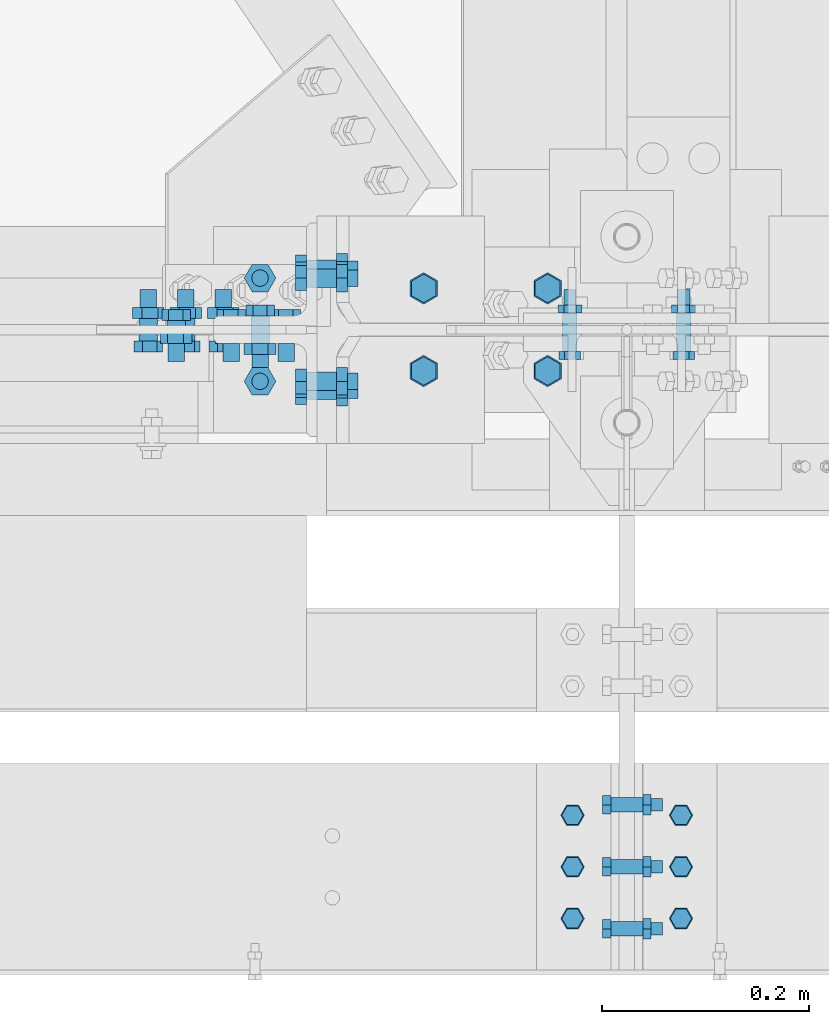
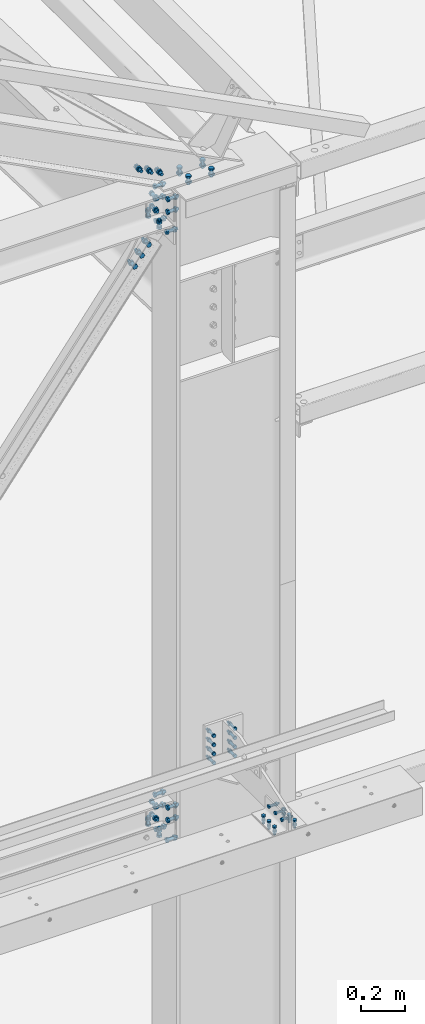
# One storey, part 166 of 362: 20 mechanical fasteners.
"""IFC2X3 building model written with IfcOpenShell, lengths in millimetres."""

from ifc_helpers import new_model, si_unit, frame, origin_with_axes, origin_2d_with_axis, place, context, subcontext, project, spatial, polyline, circle, outline, extrude, source, transform, mapped, material, type_object, element, save


model = new_model("IFC2X3")

# Units and contexts
model_context = context("Model", 3, precision=1e-05, world=origin_with_axes())
body_context = subcontext(model_context, "Body", "Model", "MODEL_VIEW")
ifc_project = project(units=[si_unit("LENGTHUNIT", "METRE", prefix="MILLI"), si_unit("AREAUNIT", "SQUARE_METRE"), si_unit("VOLUMEUNIT", "CUBIC_METRE"), si_unit("MASSUNIT", "GRAM", prefix="KILO"), si_unit("TIMEUNIT", "SECOND"), si_unit("PLANEANGLEUNIT", "RADIAN"), si_unit("SOLIDANGLEUNIT", "STERADIAN"), si_unit("THERMODYNAMICTEMPERATUREUNIT", "DEGREE_CELSIUS"), si_unit("LUMINOUSINTENSITYUNIT", "LUMEN")], contexts=[model_context])

# Site, building, storey
site_placement = place(None, origin_with_axes())
site = spatial("IfcSite", under=ifc_project, at=site_placement, Name="Undefined", CompositionType="ELEMENT")
building_placement = place(site_placement, origin_with_axes())
building = spatial("IfcBuilding", under=site, at=building_placement, Name="Undefined", CompositionType="ELEMENT")
storey_placement = place(building_placement, origin_with_axes())
storey = spatial("IfcBuildingStorey", under=building, at=storey_placement, Name="Undefined", CompositionType="ELEMENT", Elevation=0.0)

# Mechanical fasteners
ifc_material_1 = material(Name="8.8-SB-ZINGUE")
mechanical_fastener_type = type_object("IfcMechanicalFastenerType", Name="Bolt assembly")
shared_shape_1 = source(origin_with_axes(), body_context, "Body", "SweptSolid", [
    extrude(circle(Radius=7.0, at=origin_2d_with_axis()), frame((0.0, -7.5, 0.0), z_axis=(0.0, 1.0, 0.0), x_axis=(1.0, 0.0, 0.0)), (0.0, 0.0, 1.0), 15.0),
    extrude(circle(Radius=7.0, at=origin_2d_with_axis()), frame((0.0, -15.4, 0.0), z_axis=(0.0, 1.0, 0.0), x_axis=(1.0, 0.0, 0.0)), (0.0, 0.0, 1.0), 8.0),
    extrude(circle(Radius=7.0, at=origin_2d_with_axis()), frame((0.0, 7.39216762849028, 0.0), z_axis=(0.0, 1.0, 0.0), x_axis=(1.0, 0.0, 0.0)), (0.0, 0.0, 1.0), 8.1),
    extrude(outline(polyline([(10.39230484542, 0.0), (5.19615242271, 9.00000000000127), (-5.19615242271, 9.00000000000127), (-10.39230484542, 0.0), (-5.19615242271, -9.00000000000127), (5.19615242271, -9.00000000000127), (10.39230484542, 0.0)])), frame((0.0, -23.42, 0.0), z_axis=(0.0, 1.0, 0.0), x_axis=(1.0, 0.0, 0.0)), (0.0, 0.0, 1.0), 7.92),
    extrude(circle(Radius=6.0, at=origin_2d_with_axis()), frame((0.0, -15.5, 0.0), z_axis=(0.0, 1.0, 0.0), x_axis=(1.0, 0.0, 0.0)), (0.0, 0.0, 1.0), 50.0),
    extrude(outline(polyline([(11.5008173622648, 0.0), (5.7504086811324, 9.96000000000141), (-5.7504086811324, 9.96000000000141), (-11.5008173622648, 0.0), (-5.7504086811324, -9.96000000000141), (5.7504086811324, -9.96000000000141), (11.5008173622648, 0.0)])), frame((0.0, 15.4921676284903, 0.0), z_axis=(0.0, 1.0, 0.0), x_axis=(1.0, 0.0, 0.0)), (0.0, 0.0, 1.0), 7.92),
])
mechanical_fastener_1_placement = place(storey_placement, frame((28880.0, -520.0, 5274.99824538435), z_axis=(0.0, -1.0, 0.0), x_axis=(0.0, 0.0, -1.0)))
element("IfcMechanicalFastener", 1, at=mechanical_fastener_1_placement, inside=storey, type_object=mechanical_fastener_type, material=ifc_material_1, Name="Bolt assembly", NominalDiameter=12.0, NominalLength=50.0, context=body_context, shape_type="MappedRepresentation", body=[
    mapped(shared_shape_1, transform((0.0, 0.0, -60.0))),
    mapped(shared_shape_1, transform((0.0, 0.0, 0.0))),
    mapped(shared_shape_1, transform((0.0, 0.0, 60.0))),
])
shared_shape_2 = source(origin_with_axes(), body_context, "Body", "SweptSolid", [
    extrude(circle(Radius=7.0, at=origin_2d_with_axis()), frame((0.0, -0.100011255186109, 0.0), z_axis=(0.0, 1.0, 0.0), x_axis=(1.0, 0.0, 0.0)), (0.0, 0.0, 1.0), 8.6),
    extrude(circle(Radius=7.0, at=origin_2d_with_axis()), frame((0.0, -7.9, 0.0), z_axis=(0.0, 1.0, 0.0), x_axis=(1.0, 0.0, 0.0)), (0.0, 0.0, 1.0), 8.0),
    extrude(outline(polyline([(10.39230484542, 0.0), (5.19615242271, 9.00000000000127), (-5.19615242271, 9.00000000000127), (-10.39230484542, 0.0), (-5.19615242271, -9.00000000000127), (5.19615242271, -9.00000000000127), (10.39230484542, 0.0)])), frame((0.0, -15.92, 0.0), z_axis=(0.0, 1.0, 0.0), x_axis=(1.0, 0.0, 0.0)), (0.0, 0.0, 1.0), 7.92),
    extrude(circle(Radius=6.0, at=origin_2d_with_axis()), frame((0.0, -8.0, 0.0), z_axis=(0.0, 1.0, 0.0), x_axis=(1.0, 0.0, 0.0)), (0.0, 0.0, 1.0), 40.0),
    extrude(outline(polyline([(11.5008173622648, 0.0), (5.7504086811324, 9.96000000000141), (-5.7504086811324, 9.96000000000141), (-11.5008173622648, 0.0), (-5.7504086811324, -9.96000000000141), (5.7504086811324, -9.96000000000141), (11.5008173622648, 0.0)])), frame((0.0, 8.49999994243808, 0.0), z_axis=(0.0, 1.0, 0.0), x_axis=(1.0, 0.0, 0.0)), (0.0, 0.0, 1.0), 7.92),
])
for number, where, z_axis, x_axis, name in (
    (2, (28932.4921676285, -520.0, 5229.99824532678), (0.0, -1.0, 0.0), (-1.0, 0.0, 0.0), "Bolt assembly"),
    (3, (28827.5, -520.0, 5229.99824532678), (0.0, 1.0, 0.0), (1.0, 0.0, 0.0), "Bolt assembly"),
):
    element("IfcMechanicalFastener", number, at=place(storey_placement, frame(where, z_axis=z_axis, x_axis=x_axis)), inside=storey, type_object=mechanical_fastener_type, material=ifc_material_1, Name=name, NominalDiameter=12.0, NominalLength=40.0, context=body_context, shape_type="MappedRepresentation", body=[
        mapped(shared_shape_2, transform((0.0, 0.0, -50.0))),
        mapped(shared_shape_2, transform((0.0, 0.0, 0.0))),
        mapped(shared_shape_2, transform((0.0, 0.0, 50.0))),
    ])
shared_shape_3 = source(origin_with_axes(), body_context, "Body", "SweptSolid", [
    extrude(circle(Radius=7.0, at=origin_2d_with_axis()), frame((0.0, 4.99855588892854, 0.0), z_axis=(0.0, 1.0, 0.0), x_axis=(1.0, 0.0, 0.0)), (0.0, 0.0, 1.0), 12.0),
    extrude(circle(Radius=7.0, at=origin_2d_with_axis()), frame((0.0, -9.90144411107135, 0.0), z_axis=(0.0, 1.0, 0.0), x_axis=(1.0, 0.0, 0.0)), (0.0, 0.0, 1.0), 15.0),
    extrude(circle(Radius=7.0, at=origin_2d_with_axis()), frame((0.0, 16.90700523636, 0.0), z_axis=(0.0, 1.0, 0.0), x_axis=(1.0, 0.0, 0.0)), (0.0, 0.0, 1.0), 10.1),
    extrude(outline(polyline([(10.39230484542, 0.0), (5.19615242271, 9.00000000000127), (-5.19615242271, 9.00000000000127), (-10.39230484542, 0.0), (-5.19615242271, -9.00000000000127), (5.19615242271, -9.00000000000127), (10.39230484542, 0.0)])), frame((0.0, -17.9214441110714, 0.0), z_axis=(0.0, 1.0, 0.0), x_axis=(1.0, 0.0, 0.0)), (0.0, 0.0, 1.0), 7.92),
    extrude(circle(Radius=6.0, at=origin_2d_with_axis()), frame((0.0, -10.0014441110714, 0.0), z_axis=(0.0, 1.0, 0.0), x_axis=(1.0, 0.0, 0.0)), (0.0, 0.0, 1.0), 60.0),
    extrude(outline(polyline([(11.5008173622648, 0.0), (5.7504086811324, 9.96000000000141), (-5.7504086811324, 9.96000000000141), (-11.5008173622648, 0.0), (-5.7504086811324, -9.96000000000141), (5.7504086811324, -9.96000000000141), (11.5008173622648, 0.0)])), frame((0.0, 27.00700523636, 0.0), z_axis=(0.0, 1.0, 0.0), x_axis=(1.0, 0.0, 0.0)), (0.0, 0.0, 1.0), 7.92),
])
mechanical_fastener_2_placement = place(storey_placement, frame((28934.9999023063, -10.9985558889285, 5290.00066228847), z_axis=(0.0, 0.0, 1.0), x_axis=(1.0, 0.0, 0.0)))
element("IfcMechanicalFastener", 4, at=mechanical_fastener_2_placement, inside=storey, type_object=mechanical_fastener_type, material=ifc_material_1, Name="Bolt assembly", NominalDiameter=12.0, NominalLength=60.0, context=body_context, shape_type="MappedRepresentation", body=[
    mapped(shared_shape_3, transform((0.0, 0.0, 25.0))),
    mapped(shared_shape_3, transform((0.0, 0.0, -25.0))),
])
mechanical_fastener_3_placement = place(storey_placement, frame((28825.0012970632, -10.9985558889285, 5290.00066228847), z_axis=(0.0, 0.0, -1.0), x_axis=(-1.0, 0.0, 0.0)))
element("IfcMechanicalFastener", 5, at=mechanical_fastener_3_placement, inside=storey, type_object=mechanical_fastener_type, material=ifc_material_1, Name="Bolt assembly", NominalDiameter=12.0, NominalLength=60.0, context=body_context, shape_type="MappedRepresentation", body=[
    mapped(shared_shape_3, transform((0.0, 0.0, -25.0))),
    mapped(shared_shape_3, transform((0.0, 0.0, 25.0))),
])
shared_shape_4 = source(origin_with_axes(), body_context, "Body", "SweptSolid", [
    extrude(circle(Radius=7.0, at=origin_2d_with_axis()), frame((0.0, 0.0, 0.0), z_axis=(0.0, 1.0, 0.0), x_axis=(1.0, 0.0, 0.0)), (0.0, 0.0, 1.0), 12.0),
    extrude(circle(Radius=7.0, at=origin_2d_with_axis()), frame((0.0, -14.899999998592, 0.0), z_axis=(0.0, 1.0, 0.0), x_axis=(1.0, 0.0, 0.0)), (0.0, 0.0, 1.0), 15.0),
    extrude(circle(Radius=7.0, at=origin_2d_with_axis()), frame((0.0, 11.9084493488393, 0.0), z_axis=(0.0, 1.0, 0.0), x_axis=(1.0, 0.0, 0.0)), (0.0, 0.0, 1.0), 10.1),
    extrude(outline(polyline([(10.39230484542, 0.0), (5.19615242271, 9.00000000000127), (-5.19615242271, 9.00000000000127), (-10.39230484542, 0.0), (-5.19615242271, -9.00000000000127), (5.19615242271, -9.00000000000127), (10.39230484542, 0.0)])), frame((0.0, -22.919999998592, 0.0), z_axis=(0.0, 1.0, 0.0), x_axis=(1.0, 0.0, 0.0)), (0.0, 0.0, 1.0), 7.92),
    extrude(circle(Radius=6.0, at=origin_2d_with_axis()), frame((0.0, -14.999999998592, 0.0), z_axis=(0.0, 1.0, 0.0), x_axis=(1.0, 0.0, 0.0)), (0.0, 0.0, 1.0), 60.0),
    extrude(outline(polyline([(11.5008173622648, 0.0), (5.7504086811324, 9.96000000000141), (-5.7504086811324, 9.96000000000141), (-11.5008173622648, 0.0), (-5.7504086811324, -9.96000000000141), (5.7504086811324, -9.96000000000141), (11.5008173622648, 0.0)])), frame((0.0, 22.0084493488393, 0.0), z_axis=(0.0, 1.0, 0.0), x_axis=(1.0, 0.0, 0.0)), (0.0, 0.0, 1.0), 7.92),
])
mechanical_fastener_4_placement = place(storey_placement, frame((28934.9999023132, -6.0000000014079, 5390.00066228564), z_axis=(0.0, 0.0, 1.0), x_axis=(1.0, 0.0, 0.0)))
element("IfcMechanicalFastener", 6, at=mechanical_fastener_4_placement, inside=storey, type_object=mechanical_fastener_type, material=ifc_material_1, Name="Bolt assembly", NominalDiameter=12.0, NominalLength=60.0, context=body_context, shape_type="MappedRepresentation", body=[
    mapped(shared_shape_4, transform((0.0, 0.0, 25.0))),
    mapped(shared_shape_4, transform((0.0, 0.0, -25.0))),
])
mechanical_fastener_5_placement = place(storey_placement, frame((28825.0012970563, -6.0000000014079, 5390.00066228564), z_axis=(0.0, 0.0, -1.0), x_axis=(-1.0, 0.0, 0.0)))
element("IfcMechanicalFastener", 7, at=mechanical_fastener_5_placement, inside=storey, type_object=mechanical_fastener_type, material=ifc_material_1, Name="Bolt assembly", NominalDiameter=12.0, NominalLength=60.0, context=body_context, shape_type="MappedRepresentation", body=[
    mapped(shared_shape_4, transform((0.0, 0.0, -25.0))),
    mapped(shared_shape_4, transform((0.0, 0.0, 25.0))),
])
shared_shape_5 = source(origin_with_axes(), body_context, "Body", "SweptSolid", [
    extrude(circle(Radius=9.0, at=origin_2d_with_axis()), frame((0.0, -10.9000000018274, 0.0), z_axis=(0.0, 1.0, 0.0), x_axis=(1.0, 0.0, 0.0)), (0.0, 0.0, 1.0), 6.0),
    extrude(circle(Radius=9.0, at=origin_2d_with_axis()), frame((0.0, 4.9000000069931, 0.0), z_axis=(0.0, 1.0, 0.0), x_axis=(1.0, 0.0, 0.0)), (0.0, 0.0, 1.0), 6.1),
    extrude(circle(Radius=9.0, at=origin_2d_with_axis()), frame((0.0, -3.99999923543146, 0.0), z_axis=(0.0, 1.0, 0.0), x_axis=(1.0, 0.0, 0.0)), (0.0, 0.0, 1.0), 8.0),
    extrude(outline(polyline([(13.85640646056, 0.0), (6.92820323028, 12.0000000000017), (-6.92820323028, 12.0000000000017), (-13.85640646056, 0.0), (-6.92820323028, -12.0000000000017), (6.92820323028, -12.0000000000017), (13.85640646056, 0.0)])), frame((0.0, -21.5600000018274, 0.0), z_axis=(0.0, 1.0, 0.0), x_axis=(1.0, 0.0, 0.0)), (0.0, 0.0, 1.0), 10.56),
    extrude(circle(Radius=8.0, at=origin_2d_with_axis()), frame((0.0, -11.0000000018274, 0.0), z_axis=(0.0, 1.0, 0.0), x_axis=(1.0, 0.0, 0.0)), (0.0, 0.0, 1.0), 50.0),
    extrude(outline(polyline([(15.3344231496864, 0.0), (7.6672115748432, 13.2800000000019), (-7.6672115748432, 13.2800000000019), (-15.3344231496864, 0.0), (-7.6672115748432, -13.2800000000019), (7.6672115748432, -13.2800000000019), (15.3344231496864, 0.0)])), frame((0.0, 11.0000000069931, 0.0), z_axis=(0.0, 1.0, 0.0), x_axis=(1.0, 0.0, 0.0)), (0.0, 0.0, 1.0), 10.56),
])
mechanical_fastener_6_placement = place(storey_placement, frame((28489.333959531, 0.0, 8240.49863387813), z_axis=(0.796670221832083, 0.0, -0.604414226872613), x_axis=(-0.604414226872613, 0.0, -0.796670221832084)))
element("IfcMechanicalFastener", 8, at=mechanical_fastener_6_placement, inside=storey, type_object=mechanical_fastener_type, material=ifc_material_1, Name="Bolt assembly", NominalDiameter=16.0, NominalLength=50.0, context=body_context, shape_type="MappedRepresentation", body=[
    mapped(shared_shape_5, transform((0.0, 0.0, 0.0))),
    mapped(shared_shape_5, transform((60.0, 0.0, 0.0))),
    mapped(shared_shape_5, transform((120.0, 0.0, 0.0))),
])
ifc_material_2 = material(Name="#_SB-8.8-ZINGUE")
shared_shape_6 = source(origin_with_axes(), body_context, "Body", "SweptSolid", [
    extrude(circle(Radius=9.0, at=origin_2d_with_axis()), frame((0.0, -2.89976548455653, 0.0), z_axis=(0.0, 1.0, 0.0), x_axis=(1.0, 0.0, 0.0)), (0.0, 0.0, 1.0), 5.7),
    extrude(circle(Radius=9.0, at=origin_2d_with_axis()), frame((0.0, -8.89990143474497, 0.0), z_axis=(0.0, 1.0, 0.0), x_axis=(1.0, 0.0, 0.0)), (0.0, 0.0, 1.0), 6.0),
    extrude(outline(polyline([(13.85640646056, 0.0), (6.92820323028, 12.0000000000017), (-6.92820323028, 12.0000000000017), (-13.85640646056, 0.0), (-6.92820323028, -12.0000000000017), (6.92820323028, -12.0000000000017), (13.85640646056, 0.0)])), frame((0.0, -19.559901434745, 0.0), z_axis=(0.0, 1.0, 0.0), x_axis=(1.0, 0.0, 0.0)), (0.0, 0.0, 1.0), 10.56),
    extrude(circle(Radius=8.0, at=origin_2d_with_axis()), frame((0.0, -8.99990143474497, 0.0), z_axis=(0.0, 1.0, 0.0), x_axis=(1.0, 0.0, 0.0)), (0.0, 0.0, 1.0), 40.0),
    extrude(outline(polyline([(15.3344231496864, 0.0), (7.6672115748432, 13.2800000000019), (-7.6672115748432, 13.2800000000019), (-15.3344231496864, 0.0), (-7.6672115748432, -13.2800000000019), (7.6672115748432, -13.2800000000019), (15.3344231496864, 0.0)])), frame((0.0, 2.80023442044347, 0.0), z_axis=(0.0, 1.0, 0.0), x_axis=(1.0, 0.0, 0.0)), (0.0, 0.0, 1.0), 10.56),
])
mechanical_fastener_7_placement = place(storey_placement, frame((28497.1163656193, 0.000234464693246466, 8641.42270194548), z_axis=(0.887870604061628, 0.0, -0.460093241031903), x_axis=(0.460093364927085, 0.0, 0.887870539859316)))
element("IfcMechanicalFastener", 9, at=mechanical_fastener_7_placement, inside=storey, type_object=mechanical_fastener_type, material=ifc_material_2, Name="Bolt assembly", NominalDiameter=16.0, NominalLength=40.0, context=body_context, shape_type="MappedRepresentation", body=[
    mapped(shared_shape_6, transform((0.0, 0.0, -60.0))),
    mapped(shared_shape_6, transform((0.0, 0.0, 0.0))),
    mapped(shared_shape_6, transform((0.0, 0.0, 60.0))),
])
shared_shape_7 = source(origin_with_axes(), body_context, "Body", "SweptSolid", [
    extrude(circle(Radius=9.0, at=origin_2d_with_axis()), frame((0.0, -9.9, 0.0), z_axis=(0.0, 1.0, 0.0), x_axis=(1.0, 0.0, 0.0)), (0.0, 0.0, 1.0), 10.0),
    extrude(circle(Radius=9.0, at=origin_2d_with_axis()), frame((0.0, -0.100011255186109, 0.0), z_axis=(0.0, 1.0, 0.0), x_axis=(1.0, 0.0, 0.0)), (0.0, 0.0, 1.0), 10.1),
    extrude(outline(polyline([(13.85640646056, 0.0), (6.92820323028, 12.0000000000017), (-6.92820323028, 12.0000000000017), (-13.85640646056, 0.0), (-6.92820323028, -12.0000000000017), (6.92820323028, -12.0000000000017), (13.85640646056, 0.0)])), frame((0.0, -20.5600000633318, 0.0), z_axis=(0.0, 1.0, 0.0), x_axis=(1.0, 0.0, 0.0)), (0.0, 0.0, 1.0), 10.56),
    extrude(circle(Radius=8.0, at=origin_2d_with_axis()), frame((0.0, -10.0000010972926, 0.0), z_axis=(0.0, 1.0, 0.0), x_axis=(1.0, 0.0, 0.0)), (0.0, 0.0, 1.0), 40.0),
    extrude(outline(polyline([(15.3344231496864, 0.0), (7.6672115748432, 13.2800000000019), (-7.6672115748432, 13.2800000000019), (-15.3344231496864, 0.0), (-7.6672115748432, -13.2800000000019), (7.6672115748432, -13.2800000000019), (15.3344231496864, 0.0)])), frame((0.0, 10.0000000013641, 0.0), z_axis=(0.0, 1.0, 0.0), x_axis=(1.0, 0.0, 0.0)), (0.0, 0.0, 1.0), 10.56),
])
mechanical_fastener_8_placement = place(storey_placement, frame((28743.36, -40.0003156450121, 8549.99999999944), z_axis=(-1.0, 0.0, 0.0), x_axis=(0.0, 1.0, 0.0)))
element("IfcMechanicalFastener", 10, at=mechanical_fastener_8_placement, inside=storey, type_object=mechanical_fastener_type, material=ifc_material_1, Name="Bolt assembly", NominalDiameter=16.0, NominalLength=40.0, context=body_context, shape_type="MappedRepresentation", body=[
    mapped(shared_shape_7, transform((0.0, 0.0, -60.0))),
    mapped(shared_shape_7, transform((80.0, 0.0, -60.0))),
    mapped(shared_shape_7, transform((0.0, 0.0, 60.0))),
    mapped(shared_shape_7, transform((80.0, 0.0, 60.0))),
])
shared_shape_8 = source(origin_with_axes(), body_context, "Body", "SweptSolid", [
    extrude(circle(Radius=9.0, at=origin_2d_with_axis()), frame((0.0, -3.25000000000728, 0.0), z_axis=(0.0, 1.0, 0.0), x_axis=(1.0, 0.0, 0.0)), (0.0, 0.0, 1.0), 6.5),
    extrude(circle(Radius=9.0, at=origin_2d_with_axis()), frame((0.0, 3.40000111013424, 0.0), z_axis=(0.0, 1.0, 0.0), x_axis=(1.0, 0.0, 0.0)), (0.0, 0.0, 1.0), 10.1),
    extrude(circle(Radius=9.0, at=origin_2d_with_axis()), frame((0.0, -13.4000000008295, 0.0), z_axis=(0.0, 1.0, 0.0), x_axis=(1.0, 0.0, 0.0)), (0.0, 0.0, 1.0), 10.0),
    extrude(outline(polyline([(13.85640646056, 0.0), (6.92820323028, 12.0000000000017), (-6.92820323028, 12.0000000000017), (-13.85640646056, 0.0), (-6.92820323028, -12.0000000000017), (6.92820323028, -12.0000000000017), (13.85640646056, 0.0)])), frame((0.0, -24.0600000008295, 0.0), z_axis=(0.0, 1.0, 0.0), x_axis=(1.0, 0.0, 0.0)), (0.0, 0.0, 1.0), 10.56),
    extrude(circle(Radius=8.0, at=origin_2d_with_axis()), frame((0.0, -13.4999650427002, 0.0), z_axis=(0.0, 1.0, 0.0), x_axis=(1.0, 0.0, 0.0)), (0.0, 0.0, 1.0), 50.0),
    extrude(outline(polyline([(15.3344231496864, 0.0), (7.6672115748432, 13.2800000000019), (-7.6672115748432, 13.2800000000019), (-15.3344231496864, 0.0), (-7.6672115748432, -13.2800000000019), (7.6672115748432, -13.2800000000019), (15.3344231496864, 0.0)])), frame((0.0, 13.4999999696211, 0.0), z_axis=(0.0, 1.0, 0.0), x_axis=(1.0, 0.0, 0.0)), (0.0, 0.0, 1.0), 10.56),
])
for number, where, z_axis, x_axis, name in (
    (11, (28524.9968518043, 0.0, 5095.00085427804), (0.0, 0.0, -1.0), (1.0, 0.0, 0.0), "Bolt assembly"),
    (12, (28524.9968518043, 0.0, 8455.00002241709), (0.0, 0.0, -1.0), (1.0, 0.0, 0.0), "Bolt assembly"),
):
    element("IfcMechanicalFastener", number, at=place(storey_placement, frame(where, z_axis=z_axis, x_axis=x_axis)), inside=storey, type_object=mechanical_fastener_type, material=ifc_material_1, Name=name, NominalDiameter=16.0, NominalLength=50.0, context=body_context, shape_type="MappedRepresentation", body=[
        mapped(shared_shape_8, transform((0.0, 0.0, -35.0))),
        mapped(shared_shape_8, transform((0.0, 0.0, 35.0))),
    ])
shared_shape_9 = source(origin_with_axes(), body_context, "Body", "SweptSolid", [
    extrude(circle(Radius=9.0, at=origin_2d_with_axis()), frame((0.0, -0.100011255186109, 0.0), z_axis=(0.0, 1.0, 0.0), x_axis=(1.0, 0.0, 0.0)), (0.0, 0.0, 1.0), 10.1),
    extrude(circle(Radius=9.0, at=origin_2d_with_axis()), frame((0.0, -9.9, 0.0), z_axis=(0.0, 1.0, 0.0), x_axis=(1.0, 0.0, 0.0)), (0.0, 0.0, 1.0), 10.0),
    extrude(outline(polyline([(13.85640646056, 0.0), (6.92820323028, 12.0000000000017), (-6.92820323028, 12.0000000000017), (-13.85640646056, 0.0), (-6.92820323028, -12.0000000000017), (6.92820323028, -12.0000000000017), (13.85640646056, 0.0)])), frame((0.0, -20.5600000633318, 0.0), z_axis=(0.0, 1.0, 0.0), x_axis=(1.0, 0.0, 0.0)), (0.0, 0.0, 1.0), 10.56),
    extrude(circle(Radius=8.0, at=origin_2d_with_axis()), frame((0.0, -10.0000010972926, 0.0), z_axis=(0.0, 1.0, 0.0), x_axis=(1.0, 0.0, 0.0)), (0.0, 0.0, 1.0), 40.0),
    extrude(outline(polyline([(15.3344231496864, 0.0), (7.6672115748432, 13.2800000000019), (-7.6672115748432, 13.2800000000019), (-15.3344231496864, 0.0), (-7.6672115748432, -13.2800000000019), (7.6672115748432, -13.2800000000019), (15.3344231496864, 0.0)])), frame((0.0, 10.0000000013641, 0.0), z_axis=(0.0, 1.0, 0.0), x_axis=(1.0, 0.0, 0.0)), (0.0, 0.0, 1.0), 10.56),
])
mechanical_fastener_9_placement = place(storey_placement, frame((28524.9960922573, 1.44204500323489e-06, 5000.0), z_axis=(0.0, -1.0, 0.0), x_axis=(1.0, 0.0, 0.0)))
element("IfcMechanicalFastener", 13, at=mechanical_fastener_9_placement, inside=storey, type_object=mechanical_fastener_type, material=ifc_material_1, Name="Bolt assembly", NominalDiameter=16.0, NominalLength=40.0, context=body_context, shape_type="MappedRepresentation", body=[
    mapped(shared_shape_9, transform((0.0, 0.0, 50.0))),
    mapped(shared_shape_9, transform((0.0, 0.0, -50.0))),
])
shared_shape_10 = source(origin_with_axes(), body_context, "Body", "SweptSolid", [
    extrude(circle(Radius=9.0, at=origin_2d_with_axis()), frame((0.0, -0.088226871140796, 0.0), z_axis=(0.0, 1.0, 0.0), x_axis=(1.0, 0.0, 0.0)), (0.0, 0.0, 1.0), 19.1),
    extrude(circle(Radius=9.0, at=origin_2d_with_axis()), frame((0.0, -9.88833050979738, 0.0), z_axis=(0.0, 1.0, 0.0), x_axis=(1.0, 0.0, 0.0)), (0.0, 0.0, 1.0), 10.0),
    extrude(outline(polyline([(13.85640646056, 0.0), (6.92820323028, 12.0000000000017), (-6.92820323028, 12.0000000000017), (-13.85640646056, 0.0), (-6.92820323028, -12.0000000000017), (6.92820323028, -12.0000000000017), (13.85640646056, 0.0)])), frame((0.0, -20.5483104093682, 0.0), z_axis=(0.0, 1.0, 0.0), x_axis=(1.0, 0.0, 0.0)), (0.0, 0.0, 1.0), 10.56),
    extrude(circle(Radius=8.0, at=origin_2d_with_axis()), frame((0.0, -9.98833050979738, 0.0), z_axis=(0.0, 1.0, 0.0), x_axis=(1.0, 0.0, 0.0)), (0.0, 0.0, 1.0), 50.0),
    extrude(outline(polyline([(15.3344231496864, 0.0), (7.6672115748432, 13.2800000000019), (-7.6672115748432, 13.2800000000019), (-15.3344231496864, 0.0), (-7.6672115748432, -13.2800000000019), (7.6672115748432, -13.2800000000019), (15.3344231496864, 0.0)])), frame((0.0, 19.0117737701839, 0.0), z_axis=(0.0, 1.0, 0.0), x_axis=(1.0, 0.0, 0.0)), (0.0, 0.0, 1.0), 10.56),
])
mechanical_fastener_10_placement = place(storey_placement, frame((28579.9882140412, 58.500001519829, 8455.00002483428), z_axis=(0.0, 0.0, 1.0), x_axis=(-0.000259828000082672, -0.999999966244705, 0.0)))
element("IfcMechanicalFastener", 14, at=mechanical_fastener_10_placement, inside=storey, type_object=mechanical_fastener_type, material=ifc_material_1, Name="Bolt assembly", NominalDiameter=16.0, NominalLength=50.0, context=body_context, shape_type="MappedRepresentation", body=[
    mapped(shared_shape_10, transform((0.0, 0.0, 35.0))),
    mapped(shared_shape_10, transform((0.0, 0.0, -35.0))),
])
shared_shape_11 = source(origin_with_axes(), body_context, "Body", "SweptSolid", [
    extrude(circle(Radius=9.0, at=origin_2d_with_axis()), frame((0.0, -0.0891944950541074, 0.0), z_axis=(0.0, 1.0, 0.0), x_axis=(1.0, 0.0, 0.0)), (0.0, 0.0, 1.0), 19.1),
    extrude(circle(Radius=9.0, at=origin_2d_with_axis()), frame((0.0, -9.8892433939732, 0.0), z_axis=(0.0, 1.0, 0.0), x_axis=(1.0, 0.0, 0.0)), (0.0, 0.0, 1.0), 10.0),
    extrude(outline(polyline([(13.85640646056, 0.0), (6.92820323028, 12.0000000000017), (-6.92820323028, 12.0000000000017), (-13.85640646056, 0.0), (-6.92820323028, -12.0000000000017), (6.92820323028, -12.0000000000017), (13.85640646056, 0.0)])), frame((0.0, -20.5492433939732, 0.0), z_axis=(0.0, 1.0, 0.0), x_axis=(1.0, 0.0, 0.0)), (0.0, 0.0, 1.0), 10.56),
    extrude(circle(Radius=8.0, at=origin_2d_with_axis()), frame((0.0, -9.9892433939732, 0.0), z_axis=(0.0, 1.0, 0.0), x_axis=(1.0, 0.0, 0.0)), (0.0, 0.0, 1.0), 50.0),
    extrude(outline(polyline([(15.3344231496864, 0.0), (7.6672115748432, 13.2800000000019), (-7.6672115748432, 13.2800000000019), (-15.3344231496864, 0.0), (-7.6672115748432, -13.2800000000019), (7.6672115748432, -13.2800000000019), (15.3344231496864, 0.0)])), frame((0.0, 19.0108060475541, 0.0), z_axis=(0.0, 1.0, 0.0), x_axis=(1.0, 0.0, 0.0)), (0.0, 0.0, 1.0), 10.56),
])
mechanical_fastener_11_placement = place(storey_placement, frame((28579.9891587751, -58.5000012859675, 8455.00002483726), z_axis=(0.0, 0.0, -1.0), x_axis=(-0.000238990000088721, 0.99999997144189, 0.0)))
element("IfcMechanicalFastener", 15, at=mechanical_fastener_11_placement, inside=storey, type_object=mechanical_fastener_type, material=ifc_material_1, Name="Bolt assembly", NominalDiameter=16.0, NominalLength=50.0, context=body_context, shape_type="MappedRepresentation", body=[
    mapped(shared_shape_11, transform((0.0, 0.0, 35.0))),
    mapped(shared_shape_11, transform((0.0, 0.0, -35.0))),
])
shared_shape_12 = source(origin_with_axes(), body_context, "Body", "SweptSolid", [
    extrude(circle(Radius=9.0, at=origin_2d_with_axis()), frame((0.0, -0.0986371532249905, 0.0), z_axis=(0.0, 1.0, 0.0), x_axis=(1.0, 0.0, 0.0)), (0.0, 0.0, 1.0), 19.1),
    extrude(circle(Radius=9.0, at=origin_2d_with_axis()), frame((0.0, -9.90015512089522, 0.0), z_axis=(0.0, 1.0, 0.0), x_axis=(1.0, 0.0, 0.0)), (0.0, 0.0, 1.0), 10.0),
    extrude(outline(polyline([(13.85640646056, 0.0), (6.92820323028, 12.0000000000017), (-6.92820323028, 12.0000000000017), (-13.85640646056, 0.0), (-6.92820323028, -12.0000000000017), (6.92820323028, -12.0000000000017), (13.85640646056, 0.0)])), frame((0.0, -20.5601551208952, 0.0), z_axis=(0.0, 1.0, 0.0), x_axis=(1.0, 0.0, 0.0)), (0.0, 0.0, 1.0), 10.56),
    extrude(circle(Radius=8.0, at=origin_2d_with_axis()), frame((0.0, -10.0001551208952, 0.0), z_axis=(0.0, 1.0, 0.0), x_axis=(1.0, 0.0, 0.0)), (0.0, 0.0, 1.0), 50.0),
    extrude(outline(polyline([(15.3344231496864, 0.0), (7.6672115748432, 13.2800000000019), (-7.6672115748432, 13.2800000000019), (-15.3344231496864, 0.0), (-7.6672115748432, -13.2800000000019), (7.6672115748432, -13.2800000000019), (15.3344231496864, 0.0)])), frame((0.0, 19.001385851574, 0.0), z_axis=(0.0, 1.0, 0.0), x_axis=(1.0, 0.0, 0.0)), (0.0, 0.0, 1.0), 10.56),
])
mechanical_fastener_12_placement = place(storey_placement, frame((28579.9985408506, -1.81524558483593e-07, 8304.99916807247), z_axis=(0.0, 1.0, 0.0), x_axis=(5.44119999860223e-05, -1.99999999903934e-09, 0.999999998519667)))
element("IfcMechanicalFastener", 16, at=mechanical_fastener_12_placement, inside=storey, type_object=mechanical_fastener_type, material=ifc_material_1, Name="Bolt assembly", NominalDiameter=16.0, NominalLength=50.0, context=body_context, shape_type="MappedRepresentation", body=[
    mapped(shared_shape_12, transform((0.0, 0.0, 50.0))),
    mapped(shared_shape_12, transform((0.0, 0.0, -50.0))),
])
shared_shape_13 = source(origin_with_axes(), body_context, "Body", "SweptSolid", [
    extrude(circle(Radius=9.0, at=origin_2d_with_axis()), frame((0.0, -0.104724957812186, 0.0), z_axis=(0.0, 1.0, 0.0), x_axis=(1.0, 0.0, 0.0)), (0.0, 0.0, 1.0), 10.1),
    extrude(circle(Radius=9.0, at=origin_2d_with_axis()), frame((0.0, -9.9, 0.0), z_axis=(0.0, 1.0, 0.0), x_axis=(1.0, 0.0, 0.0)), (0.0, 0.0, 1.0), 10.0),
    extrude(outline(polyline([(13.85640646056, 0.0), (6.92820323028, 12.0000000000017), (-6.92820323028, 12.0000000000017), (-13.85640646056, 0.0), (-6.92820323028, -12.0000000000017), (6.92820323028, -12.0000000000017), (13.85640646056, 0.0)])), frame((0.0, -20.5600000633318, 0.0), z_axis=(0.0, 1.0, 0.0), x_axis=(1.0, 0.0, 0.0)), (0.0, 0.0, 1.0), 10.56),
    extrude(circle(Radius=8.0, at=origin_2d_with_axis()), frame((0.0, -10.0000010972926, 0.0), z_axis=(0.0, 1.0, 0.0), x_axis=(1.0, 0.0, 0.0)), (0.0, 0.0, 1.0), 40.0),
    extrude(outline(polyline([(15.3344231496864, 0.0), (7.6672115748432, 13.2800000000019), (-7.6672115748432, 13.2800000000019), (-15.3344231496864, 0.0), (-7.6672115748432, -13.2800000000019), (7.6672115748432, -13.2800000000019), (15.3344231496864, 0.0)])), frame((0.0, 9.99528924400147, 0.0), z_axis=(0.0, 1.0, 0.0), x_axis=(1.0, 0.0, 0.0)), (0.0, 0.0, 1.0), 10.56),
])
mechanical_fastener_13_placement = place(storey_placement, frame((28524.9960922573, 1.44204500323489e-06, 8359.99916813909), z_axis=(0.0, -1.0, 0.0), x_axis=(1.0, 0.0, 0.0)))
element("IfcMechanicalFastener", 17, at=mechanical_fastener_13_placement, inside=storey, type_object=mechanical_fastener_type, material=ifc_material_1, Name="Bolt assembly", NominalDiameter=16.0, NominalLength=40.0, context=body_context, shape_type="MappedRepresentation", body=[
    mapped(shared_shape_13, transform((0.0, 0.0, 50.0))),
    mapped(shared_shape_13, transform((0.0, 0.0, -50.0))),
])
shared_shape_14 = source(origin_with_axes(), body_context, "Body", "SweptSolid", [
    extrude(circle(Radius=9.0, at=origin_2d_with_axis()), frame((0.0, -0.0893275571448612, 0.0), z_axis=(0.0, 1.0, 0.0), x_axis=(1.0, 0.0, 0.0)), (0.0, 0.0, 1.0), 19.1),
    extrude(circle(Radius=9.0, at=origin_2d_with_axis()), frame((0.0, -9.88833050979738, 0.0), z_axis=(0.0, 1.0, 0.0), x_axis=(1.0, 0.0, 0.0)), (0.0, 0.0, 1.0), 10.0),
    extrude(outline(polyline([(13.85640646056, 0.0), (6.92820323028, 12.0000000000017), (-6.92820323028, 12.0000000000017), (-13.85640646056, 0.0), (-6.92820323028, -12.0000000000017), (6.92820323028, -12.0000000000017), (13.85640646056, 0.0)])), frame((0.0, -20.5483104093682, 0.0), z_axis=(0.0, 1.0, 0.0), x_axis=(1.0, 0.0, 0.0)), (0.0, 0.0, 1.0), 10.56),
    extrude(circle(Radius=8.0, at=origin_2d_with_axis()), frame((0.0, -9.98833050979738, 0.0), z_axis=(0.0, 1.0, 0.0), x_axis=(1.0, 0.0, 0.0)), (0.0, 0.0, 1.0), 50.0),
    extrude(outline(polyline([(15.3344231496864, 0.0), (7.6672115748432, 13.2800000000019), (-7.6672115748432, 13.2800000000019), (-15.3344231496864, 0.0), (-7.6672115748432, -13.2800000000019), (7.6672115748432, -13.2800000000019), (15.3344231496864, 0.0)])), frame((0.0, 19.0106730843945, 0.0), z_axis=(0.0, 1.0, 0.0), x_axis=(1.0, 0.0, 0.0)), (0.0, 0.0, 1.0), 10.56),
])
mechanical_fastener_14_placement = place(storey_placement, frame((28579.9882160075, 58.500001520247, 5095.00085669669), z_axis=(0.0, 0.0, 1.0), x_axis=(-0.000259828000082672, -0.999999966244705, 0.0)))
element("IfcMechanicalFastener", 18, at=mechanical_fastener_14_placement, inside=storey, type_object=mechanical_fastener_type, material=ifc_material_1, Name="Bolt assembly", NominalDiameter=16.0, NominalLength=50.0, context=body_context, shape_type="MappedRepresentation", body=[
    mapped(shared_shape_14, transform((0.0, 0.0, 35.0))),
    mapped(shared_shape_14, transform((0.0, 0.0, -35.0))),
])
shared_shape_15 = source(origin_with_axes(), body_context, "Body", "SweptSolid", [
    extrude(circle(Radius=9.0, at=origin_2d_with_axis()), frame((0.0, -0.0902912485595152, 0.0), z_axis=(0.0, 1.0, 0.0), x_axis=(1.0, 0.0, 0.0)), (0.0, 0.0, 1.0), 19.1),
    extrude(circle(Radius=9.0, at=origin_2d_with_axis()), frame((0.0, -9.8892433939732, 0.0), z_axis=(0.0, 1.0, 0.0), x_axis=(1.0, 0.0, 0.0)), (0.0, 0.0, 1.0), 10.0),
    extrude(outline(polyline([(13.85640646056, 0.0), (6.92820323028, 12.0000000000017), (-6.92820323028, 12.0000000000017), (-13.85640646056, 0.0), (-6.92820323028, -12.0000000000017), (6.92820323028, -12.0000000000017), (13.85640646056, 0.0)])), frame((0.0, -20.5492433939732, 0.0), z_axis=(0.0, 1.0, 0.0), x_axis=(1.0, 0.0, 0.0)), (0.0, 0.0, 1.0), 10.56),
    extrude(circle(Radius=8.0, at=origin_2d_with_axis()), frame((0.0, -9.9892433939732, 0.0), z_axis=(0.0, 1.0, 0.0), x_axis=(1.0, 0.0, 0.0)), (0.0, 0.0, 1.0), 50.0),
    extrude(outline(polyline([(15.3344231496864, 0.0), (7.6672115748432, 13.2800000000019), (-7.6672115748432, 13.2800000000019), (-15.3344231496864, 0.0), (-7.6672115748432, -13.2800000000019), (7.6672115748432, -13.2800000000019), (15.3344231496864, 0.0)])), frame((0.0, 19.0097092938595, 0.0), z_axis=(0.0, 1.0, 0.0), x_axis=(1.0, 0.0, 0.0)), (0.0, 0.0, 1.0), 10.56),
])
mechanical_fastener_15_placement = place(storey_placement, frame((28579.9891568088, -58.500001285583, 5095.00085669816), z_axis=(0.0, 0.0, -1.0), x_axis=(-0.000238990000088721, 0.99999997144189, 0.0)))
element("IfcMechanicalFastener", 19, at=mechanical_fastener_15_placement, inside=storey, type_object=mechanical_fastener_type, material=ifc_material_1, Name="Bolt assembly", NominalDiameter=16.0, NominalLength=50.0, context=body_context, shape_type="MappedRepresentation", body=[
    mapped(shared_shape_15, transform((0.0, 0.0, 35.0))),
    mapped(shared_shape_15, transform((0.0, 0.0, -35.0))),
])
shared_shape_16 = source(origin_with_axes(), body_context, "Body", "SweptSolid", [
    extrude(circle(Radius=9.0, at=origin_2d_with_axis()), frame((0.0, -0.0997388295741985, 0.0), z_axis=(0.0, 1.0, 0.0), x_axis=(1.0, 0.0, 0.0)), (0.0, 0.0, 1.0), 19.1),
    extrude(circle(Radius=9.0, at=origin_2d_with_axis()), frame((0.0, -9.90015512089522, 0.0), z_axis=(0.0, 1.0, 0.0), x_axis=(1.0, 0.0, 0.0)), (0.0, 0.0, 1.0), 10.0),
    extrude(outline(polyline([(13.85640646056, 0.0), (6.92820323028, 12.0000000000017), (-6.92820323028, 12.0000000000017), (-13.85640646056, 0.0), (-6.92820323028, -12.0000000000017), (6.92820323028, -12.0000000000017), (13.85640646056, 0.0)])), frame((0.0, -20.5601551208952, 0.0), z_axis=(0.0, 1.0, 0.0), x_axis=(1.0, 0.0, 0.0)), (0.0, 0.0, 1.0), 10.56),
    extrude(circle(Radius=8.0, at=origin_2d_with_axis()), frame((0.0, -10.0001551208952, 0.0), z_axis=(0.0, 1.0, 0.0), x_axis=(1.0, 0.0, 0.0)), (0.0, 0.0, 1.0), 50.0),
    extrude(outline(polyline([(15.3344231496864, 0.0), (7.6672115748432, 13.2800000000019), (-7.6672115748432, 13.2800000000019), (-15.3344231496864, 0.0), (-7.6672115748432, -13.2800000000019), (7.6672115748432, -13.2800000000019), (15.3344231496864, 0.0)])), frame((0.0, 19.0002871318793, 0.0), z_axis=(0.0, 1.0, 0.0), x_axis=(1.0, 0.0, 0.0)), (0.0, 0.0, 1.0), 10.56),
])
mechanical_fastener_16_placement = place(storey_placement, frame((28579.9985408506, -1.81483631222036e-07, 4944.99999993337), z_axis=(0.0, 1.0, 0.0), x_axis=(5.44119999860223e-05, -1.99999999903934e-09, 0.999999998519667)))
element("IfcMechanicalFastener", 20, at=mechanical_fastener_16_placement, inside=storey, type_object=mechanical_fastener_type, material=ifc_material_1, Name="Bolt assembly", NominalDiameter=16.0, NominalLength=50.0, context=body_context, shape_type="MappedRepresentation", body=[
    mapped(shared_shape_16, transform((0.0, 0.0, 50.0))),
    mapped(shared_shape_16, transform((0.0, 0.0, -50.0))),
])

save(model, "model.ifc")
